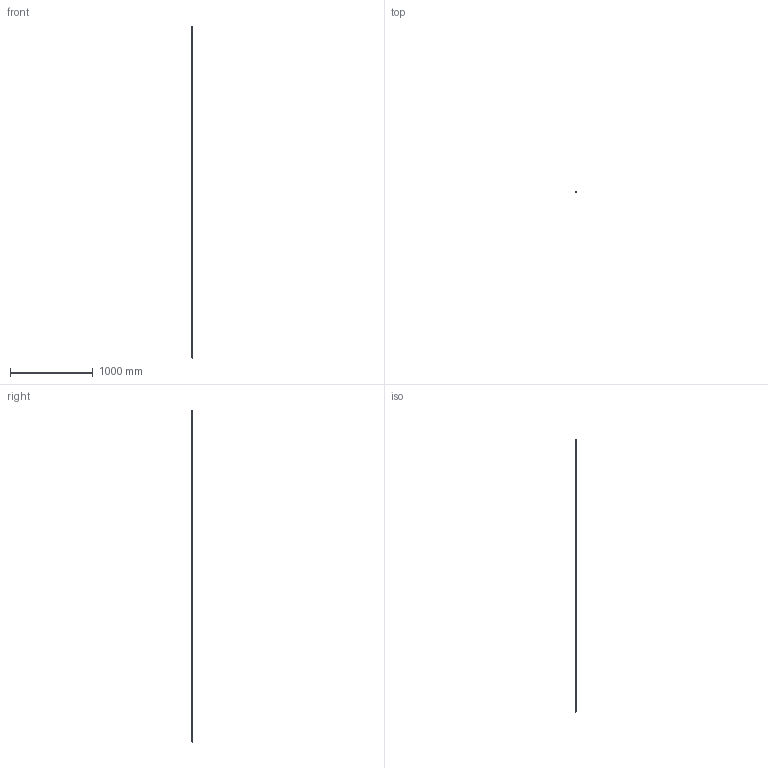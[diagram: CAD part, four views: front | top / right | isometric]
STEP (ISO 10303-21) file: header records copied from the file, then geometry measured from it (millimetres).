
FILE_DESCRIPTION (( 'STEP AP214' ), '1' );
FILE_NAME ('R15-4000.STEP', '2019-05-31T07:19:48', ( '' ), ( '' ), 'SwSTEP 2.0', 'SolidWorks 2016', '' );
FILE_SCHEMA (( 'AUTOMOTIVE_DESIGN' ));
Length unit declared in the file: millimetre
Products named in the file (1): R15-4000
Bounding box: 15 x 15 x 4000 mm (x, y, z)
Volume: 782748.6 mm3; surface area: 262096.1 mm2
Topology: 1 solids, 1 shells, 361 faces, 876 edges, 584 vertices
Faces by surface type: cylinder 274, plane 87
Entity records: 15151 total; most frequent: DIRECTION 2148, CARTESIAN_POINT 1822, ORIENTED_EDGE 1752, AXIS2_PLACEMENT_3D 910, EDGE_CURVE 876, VERTEX_POINT 584, EDGE_LOOP 562, CIRCLE 548
